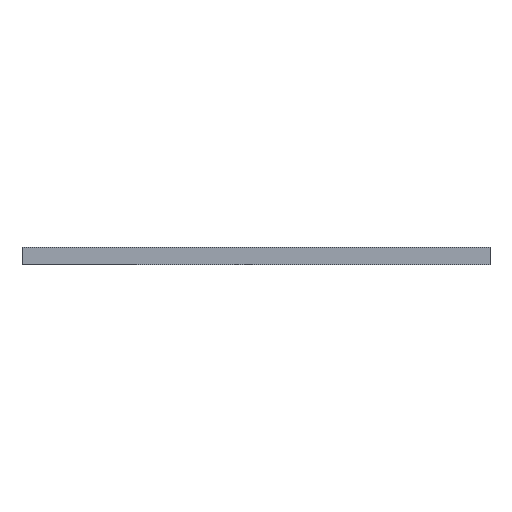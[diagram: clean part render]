
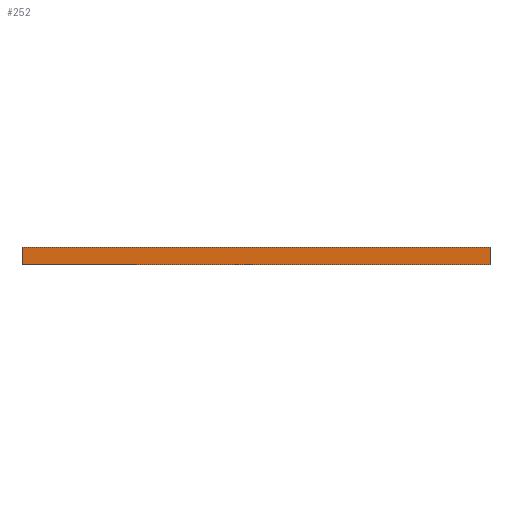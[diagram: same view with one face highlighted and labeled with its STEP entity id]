
A CAD part, front view. The second image highlights one B-rep face of the part: STEP entity #252.
In plain terms, the highlighted planar face has unit normal (0, -1, 0).
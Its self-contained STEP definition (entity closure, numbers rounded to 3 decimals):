
#26 = EDGE_CURVE ( 'NONE', #46, #52, #936, .T. ) ;
#46 = VERTEX_POINT ( 'NONE', #1195 ) ;
#52 = VERTEX_POINT ( 'NONE', #1153 ) ;
#145 = VERTEX_POINT ( 'NONE', #1231 ) ;
#147 = EDGE_CURVE ( 'NONE', #145, #148, #1230, .T. ) ;
#148 = VERTEX_POINT ( 'NONE', #1226 ) ;
#219 = ORIENTED_EDGE ( 'NONE', *, *, #147, .F. ) ;
#220 = ORIENTED_EDGE ( 'NONE', *, *, #248, .T. ) ;
#248 = EDGE_CURVE ( 'NONE', #145, #46, #1529, .T. ) ;
#252 = ADVANCED_FACE ( 'NONE', ( #1521 ), #1520, .F. ) ;
#394 = EDGE_LOOP ( 'NONE', ( #395, #396, #219, #220 ) ) ;
#395 = ORIENTED_EDGE ( 'NONE', *, *, #26, .T. ) ;
#396 = ORIENTED_EDGE ( 'NONE', *, *, #397, .F. ) ;
#397 = EDGE_CURVE ( 'NONE', #148, #52, #1462, .T. ) ;
#933 = DIRECTION ( 'NONE',  ( 1., 0., 0. ) ) ;
#934 = VECTOR ( 'NONE', #933, 1000. ) ;
#935 = CARTESIAN_POINT ( 'NONE',  ( -110., -127.5, 0. ) ) ;
#936 = LINE ( 'NONE', #935, #934 ) ;
#1153 = CARTESIAN_POINT ( 'NONE',  ( 110., -127.5, 0. ) ) ;
#1195 = CARTESIAN_POINT ( 'NONE',  ( -110., -127.5, 0. ) ) ;
#1226 = CARTESIAN_POINT ( 'NONE',  ( 110., -127.5, 8. ) ) ;
#1227 = DIRECTION ( 'NONE',  ( 1., 0., 0. ) ) ;
#1228 = VECTOR ( 'NONE', #1227, 1000. ) ;
#1229 = CARTESIAN_POINT ( 'NONE',  ( -110., -127.5, 8. ) ) ;
#1230 = LINE ( 'NONE', #1229, #1228 ) ;
#1231 = CARTESIAN_POINT ( 'NONE',  ( -110., -127.5, 8. ) ) ;
#1459 = DIRECTION ( 'NONE',  ( 0., 0., -1. ) ) ;
#1460 = VECTOR ( 'NONE', #1459, 1000. ) ;
#1461 = CARTESIAN_POINT ( 'NONE',  ( 110., -127.5, 8. ) ) ;
#1462 = LINE ( 'NONE', #1461, #1460 ) ;
#1516 = DIRECTION ( 'NONE',  ( 0., 0., 1. ) ) ;
#1517 = DIRECTION ( 'NONE',  ( 0., 1., 0. ) ) ;
#1518 = CARTESIAN_POINT ( 'NONE',  ( -110., -127.5, 8. ) ) ;
#1519 = AXIS2_PLACEMENT_3D ( 'NONE', #1518, #1517, #1516 ) ;
#1520 = PLANE ( 'NONE',  #1519 ) ;
#1521 = FACE_OUTER_BOUND ( 'NONE', #394, .T. ) ;
#1526 = DIRECTION ( 'NONE',  ( 0., 0., -1. ) ) ;
#1527 = VECTOR ( 'NONE', #1526, 1000. ) ;
#1528 = CARTESIAN_POINT ( 'NONE',  ( -110., -127.5, 8. ) ) ;
#1529 = LINE ( 'NONE', #1528, #1527 ) ;
